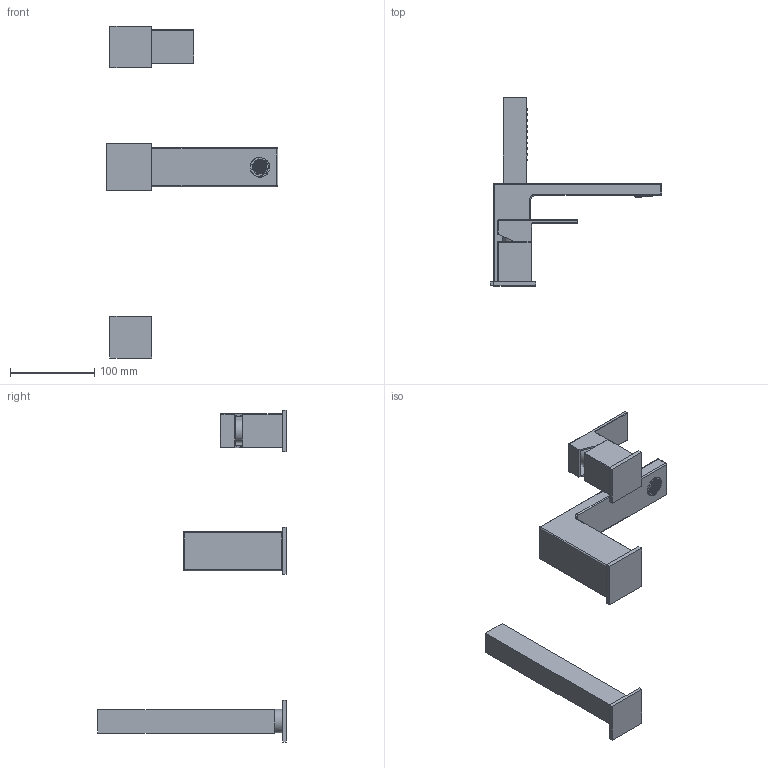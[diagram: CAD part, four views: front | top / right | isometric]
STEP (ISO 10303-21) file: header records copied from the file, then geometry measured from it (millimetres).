
FILE_DESCRIPTION (( 'STEP AP214' ), '1' );
FILE_NAME ('58139310 x architetti.STEP', '2025-01-25T06:59:10', ( '' ), ( '' ), 'SwSTEP 2.0', 'SolidWorks 2020', '' );
FILE_SCHEMA (( 'AUTOMOTIVE_DESIGN' ));
Length unit declared in the file: millimetre
Products named in the file (1): 58139310 x architetti
Bounding box: 204.35 x 224 x 395 mm (x, y, z)
Volume: 668819.2 mm3; surface area: 109775.7 mm2
Topology: 3 solids, 9 shells, 1635 faces, 3874 edges, 2536 vertices
Faces by surface type: plane 1404, cylinder 171, bspline 38, cone 22
Entity records: 63076 total; most frequent: CARTESIAN_POINT 9778, ORIENTED_EDGE 7708, DIRECTION 7332, EDGE_CURVE 3854, LINE 3428, VECTOR 3428, VERTEX_POINT 2536, AXIS2_PLACEMENT_3D 1952
